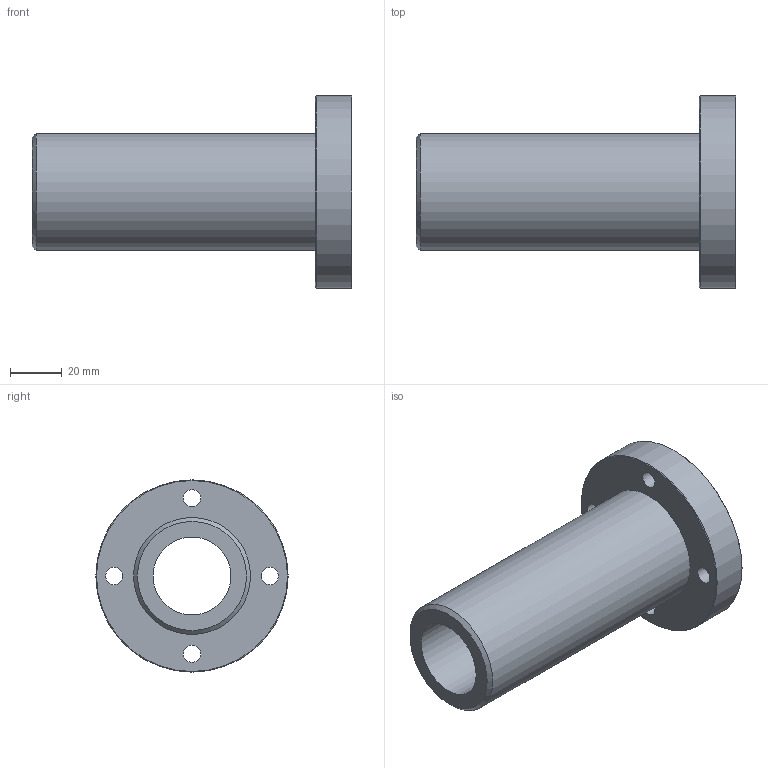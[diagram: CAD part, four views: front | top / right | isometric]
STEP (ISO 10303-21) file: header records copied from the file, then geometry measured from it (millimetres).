
FILE_DESCRIPTION(('STEP AP203'),'1');
FILE_NAME('//192.168.1.1/share/s-4 技術開発/s-4-4_CAD/s-4-4-3_見直し済み/PBC LINEAR修正済み/DFPJ/DFPJ_TOP/DFPJR/DFPJR30.step','2022-03-24T05:37:19',(' '),(' '),'Spatial InterOp 3D',' ',' ');
FILE_SCHEMA(('CONFIG_CONTROL_DESIGN'));
Length unit declared in the file: millimetre
Products named in the file (1): 1
Bounding box: 123 x 74 x 74 mm (x, y, z)
Volume: 143054.8 mm3; surface area: 38472.9 mm2
Topology: 1 solids, 1 shells, 21 faces, 44 edges, 30 vertices
Faces by surface type: cylinder 11, plane 7, cone 3
Full cylindrical faces by diameter (mm): 6.6 x4, 11 x4, 30 x1, 45 x1, 74 x1
Entity records: 528 total; most frequent: DIRECTION 94, CARTESIAN_POINT 72, EDGE_LOOP 50, ORIENTED_EDGE 50, AXIS2_PLACEMENT_3D 47, FACE_OUTER_BOUND 32, EDGE_CURVE 25, VERTEX_POINT 25
